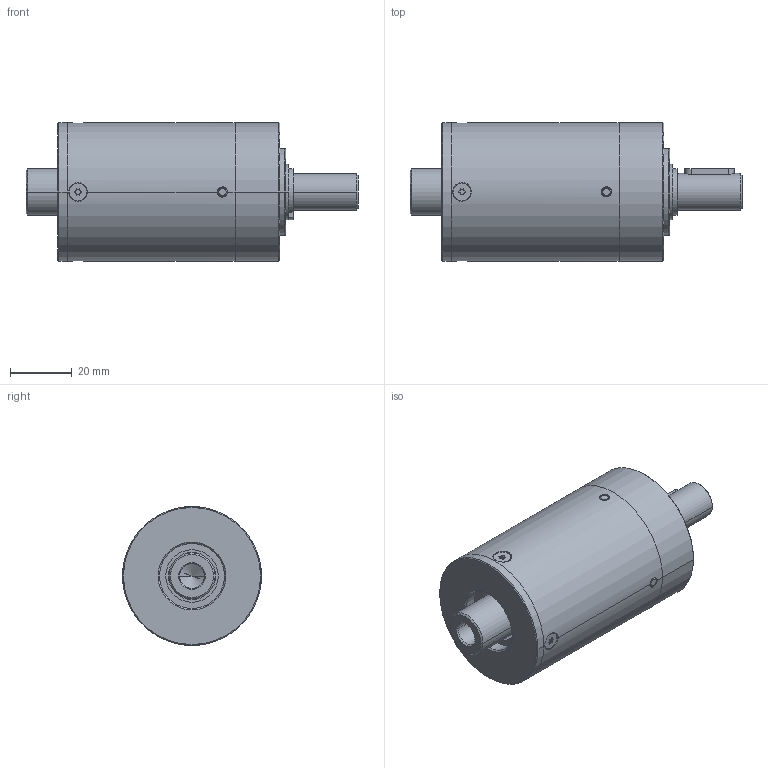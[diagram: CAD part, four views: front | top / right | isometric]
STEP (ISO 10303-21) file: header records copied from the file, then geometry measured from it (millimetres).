
FILE_DESCRIPTION((''),'2;1');
FILE_NAME('IMS45_PRO_MAX_2_STAGE_ASM','2023-07-27T09:44:19',('mhummel'),(''),'CREO PARAMETRIC BY PTC INC, 2020184','CREO PARAMETRIC BY PTC INC, 2020184','');
FILE_SCHEMA(('AUTOMOTIVE_DESIGN { 1 0 10303 214 1 1 1 1 }'));
Length unit declared in the file: millimetre
Products named in the file (16): IMS45_PRO_MAX_BEARING_FLANGE; IMS45_PRO_MAX_BALL_BEARING; IMS45_PRO_MAX_RING_GEAR_2; IMS45_PRO_MAX_CYLINDER_PIN; IMS45_PRO_MAX_RING_GEAR_2_STAGE_ASM; IMS45_PRO_MAX_MOTOR_FLANGE; IMS45_PRO_MAX_SHAFT_RAW_AF0; IMS45_PRO_MAX_SHAFT_ASM; IMS45_PRO_MAX_SHIM_RING; IMS45_PRO_MAX_RETAINING_RING_A; IMS45_PRO_MAX_FEATHER_KEY; IMS45_PRO_MAX_THRUST_WASHER; IMS45_PRO_MAX_SCREW; IMS45_PRO_MAX_MO_PINION_LONG; IMS45_PRO_MAX_MO_PINION_SHORT; IMS45_PRO_MAX_2_STAGE_ASM
Assembly tree (22 placements, depth 3):
  IMS45_PRO_MAX_2_STAGE_ASM
    IMS45_PRO_MAX_BEARING_FLANGE
    IMS45_PRO_MAX_BALL_BEARING  x2
    IMS45_PRO_MAX_RING_GEAR_2_STAGE_ASM
      IMS45_PRO_MAX_RING_GEAR_2
      IMS45_PRO_MAX_CYLINDER_PIN  x4
    IMS45_PRO_MAX_MOTOR_FLANGE
    IMS45_PRO_MAX_SHAFT_ASM
      IMS45_PRO_MAX_SHAFT_RAW_AF0
    IMS45_PRO_MAX_SHIM_RING
    IMS45_PRO_MAX_RETAINING_RING_A
    IMS45_PRO_MAX_FEATHER_KEY
    IMS45_PRO_MAX_THRUST_WASHER
    IMS45_PRO_MAX_SCREW  x4
    IMS45_PRO_MAX_MO_PINION_LONG
    IMS45_PRO_MAX_MO_PINION_SHORT
Bounding box: 107.5 x 45 x 45 mm (x, y, z)
Volume: 86061 mm3; surface area: 46015.2 mm2
Topology: 24 solids, 26 shells, 477 faces, 1071 edges, 642 vertices
Faces by surface type: cylinder 202, plane 119, cone 82, torus 58, revolution 16
Entity records: 12794 total; most frequent: CARTESIAN_POINT 2135, DIRECTION 1703, ORIENTED_EDGE 1350, PRESENTATION_STYLE_ASSIGNMENT 767, STYLED_ITEM 765, AXIS2_PLACEMENT_3D 712, CURVE_STYLE 679, EDGE_CURVE 675
